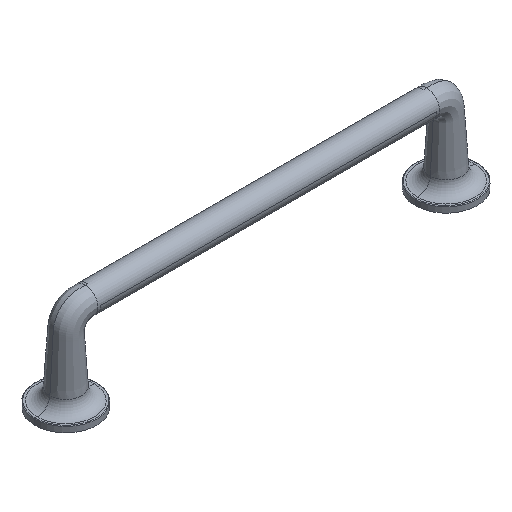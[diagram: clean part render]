
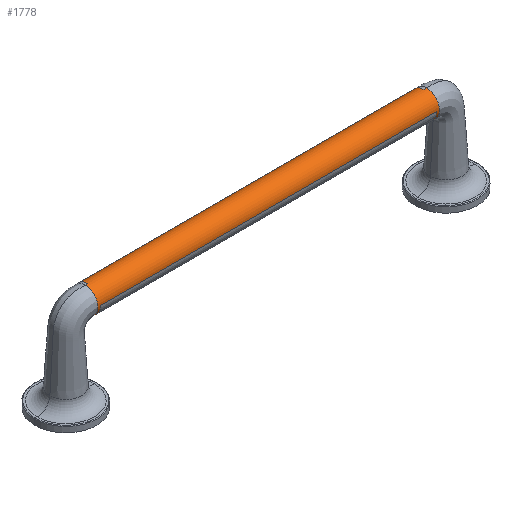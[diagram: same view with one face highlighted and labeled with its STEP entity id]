
A CAD part, isometric view. The second image highlights one B-rep face of the part: STEP entity #1778.
In plain terms, the highlighted cylindrical face has radius 10 mm (diameter 20 mm), a partial arc.
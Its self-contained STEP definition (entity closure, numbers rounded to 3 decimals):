
#268=CARTESIAN_POINT('',(284.653,0.,75.8));
#275=CARTESIAN_POINT('',(284.653,0.,55.8));
#310=CARTESIAN_POINT('',(284.653,0.,65.8));
#311=DIRECTION('',(-1.,0.,0.));
#312=DIRECTION('',(0.,0.,-1.));
#313=AXIS2_PLACEMENT_3D('',#310,#311,#312);
#315=CARTESIAN_POINT('',(284.653,0.,65.8));
#316=DIRECTION('',(-1.,0.,0.));
#317=DIRECTION('',(0.,-0.391,-0.921));
#318=AXIS2_PLACEMENT_3D('',#315,#316,#317);
#320=DIRECTION('',(-1.,0.,0.));
#321=VECTOR('',#320,265.);
#322=CARTESIAN_POINT('',(282.5,-10.,65.8));
#323=LINE('',#322,#321);
#324=CARTESIAN_POINT('',(17.5,0.,65.8));
#325=DIRECTION('',(-1.,0.,0.));
#326=DIRECTION('',(0.,0.,-1.));
#327=AXIS2_PLACEMENT_3D('',#324,#325,#326);
#329=DIRECTION('',(1.,0.,0.));
#330=VECTOR('',#329,2.153);
#331=CARTESIAN_POINT('',(282.5,0.,75.8));
#332=LINE('',#331,#330);
#333=DIRECTION('',(1.,0.,0.));
#334=VECTOR('',#333,2.153);
#335=CARTESIAN_POINT('',(282.5,0.,55.8));
#336=LINE('',#335,#334);
#337=CARTESIAN_POINT('',(282.5,0.,65.8));
#338=DIRECTION('',(-1.,0.,0.));
#339=DIRECTION('',(0.,0.,-1.));
#340=AXIS2_PLACEMENT_3D('',#337,#338,#339);
#342=DIRECTION('',(-1.,0.,0.));
#343=VECTOR('',#342,265.);
#344=CARTESIAN_POINT('',(282.5,10.,65.8));
#345=LINE('',#344,#343);
#346=CARTESIAN_POINT('',(17.5,0.,65.8));
#347=DIRECTION('',(-1.,0.,0.));
#348=DIRECTION('',(0.,0.,1.));
#349=AXIS2_PLACEMENT_3D('',#346,#347,#348);
#351=DIRECTION('',(-1.,0.,0.));
#352=VECTOR('',#351,2.153);
#353=CARTESIAN_POINT('',(17.5,0.,75.8));
#354=LINE('',#353,#352);
#355=DIRECTION('',(-1.,0.,0.));
#356=VECTOR('',#355,2.153);
#357=CARTESIAN_POINT('',(17.5,0.,55.8));
#358=LINE('',#357,#356);
#359=CARTESIAN_POINT('',(282.5,0.,65.8));
#360=DIRECTION('',(-1.,0.,0.));
#361=DIRECTION('',(0.,0.,1.));
#362=AXIS2_PLACEMENT_3D('',#359,#360,#361);
#407=CARTESIAN_POINT('',(15.347,0.,75.8));
#409=CARTESIAN_POINT('',(15.347,0.,65.8));
#410=DIRECTION('',(1.,0.,0.));
#411=DIRECTION('',(0.,0.,1.));
#412=AXIS2_PLACEMENT_3D('',#409,#410,#411);
#414=CARTESIAN_POINT('',(15.347,0.,55.8));
#721=VERTEX_POINT('',#268);
#722=VERTEX_POINT('',#275);
#723=CARTESIAN_POINT('',(284.653,-3.906,56.594));
#724=VERTEX_POINT('',#723);
#741=VERTEX_POINT('',#407);
#742=VERTEX_POINT('',#414);
#757=CARTESIAN_POINT('',(282.5,0.,55.8));
#758=CARTESIAN_POINT('',(282.5,-10.,65.8));
#759=VERTEX_POINT('',#757);
#760=VERTEX_POINT('',#758);
#761=CARTESIAN_POINT('',(282.5,0.,75.8));
#762=CARTESIAN_POINT('',(282.5,10.,65.8));
#763=VERTEX_POINT('',#761);
#764=VERTEX_POINT('',#762);
#765=CARTESIAN_POINT('',(17.5,0.,55.8));
#766=CARTESIAN_POINT('',(17.5,-10.,65.8));
#767=VERTEX_POINT('',#765);
#768=VERTEX_POINT('',#766);
#769=CARTESIAN_POINT('',(17.5,0.,75.8));
#770=CARTESIAN_POINT('',(17.5,10.,65.8));
#771=VERTEX_POINT('',#769);
#772=VERTEX_POINT('',#770);
#1747=CARTESIAN_POINT('',(284.761,0.,65.8));
#1748=DIRECTION('',(-1.,0.,0.));
#1749=DIRECTION('',(0.,0.,-1.));
#1750=AXIS2_PLACEMENT_3D('',#1747,#1748,#1749);
#1751=CYLINDRICAL_SURFACE('',#1750,10.);
#1753=ORIENTED_EDGE('',*,*,#1752,.T.);
#1755=ORIENTED_EDGE('',*,*,#1754,.F.);
#1757=ORIENTED_EDGE('',*,*,#1756,.T.);
#1759=ORIENTED_EDGE('',*,*,#1758,.F.);
#1761=ORIENTED_EDGE('',*,*,#1760,.F.);
#1763=ORIENTED_EDGE('',*,*,#1762,.T.);
#1765=ORIENTED_EDGE('',*,*,#1764,.F.);
#1767=ORIENTED_EDGE('',*,*,#1766,.F.);
#1769=ORIENTED_EDGE('',*,*,#1768,.T.);
#1770=ORIENTED_EDGE('',*,*,#1735,.F.);
#1771=ORIENTED_EDGE('',*,*,#1733,.F.);
#1773=ORIENTED_EDGE('',*,*,#1772,.F.);
#1775=ORIENTED_EDGE('',*,*,#1774,.T.);
#1776=EDGE_LOOP('',(#1753,#1755,#1757,#1759,#1761,#1763,#1765,#1767,#1769,#1770,
#1771,#1773,#1775));
#1777=FACE_OUTER_BOUND('',#1776,.F.);
#314=CIRCLE('',#313,10.);
#319=CIRCLE('',#318,10.);
#328=CIRCLE('',#327,10.);
#341=CIRCLE('',#340,10.);
#350=CIRCLE('',#349,10.);
#363=CIRCLE('',#362,10.);
#413=CIRCLE('',#412,10.);
#1733=EDGE_CURVE('',#722,#724,#314,.T.);
#1735=EDGE_CURVE('',#724,#721,#319,.T.);
#1752=EDGE_CURVE('',#760,#768,#323,.T.);
#1754=EDGE_CURVE('',#767,#768,#328,.T.);
#1756=EDGE_CURVE('',#767,#742,#358,.T.);
#1758=EDGE_CURVE('',#741,#742,#413,.T.);
#1760=EDGE_CURVE('',#771,#741,#354,.T.);
#1762=EDGE_CURVE('',#771,#772,#350,.T.);
#1764=EDGE_CURVE('',#764,#772,#345,.T.);
#1766=EDGE_CURVE('',#763,#764,#363,.T.);
#1768=EDGE_CURVE('',#763,#721,#332,.T.);
#1772=EDGE_CURVE('',#759,#722,#336,.T.);
#1774=EDGE_CURVE('',#759,#760,#341,.T.);
#1778=ADVANCED_FACE('',(#1777),#1751,.T.);
